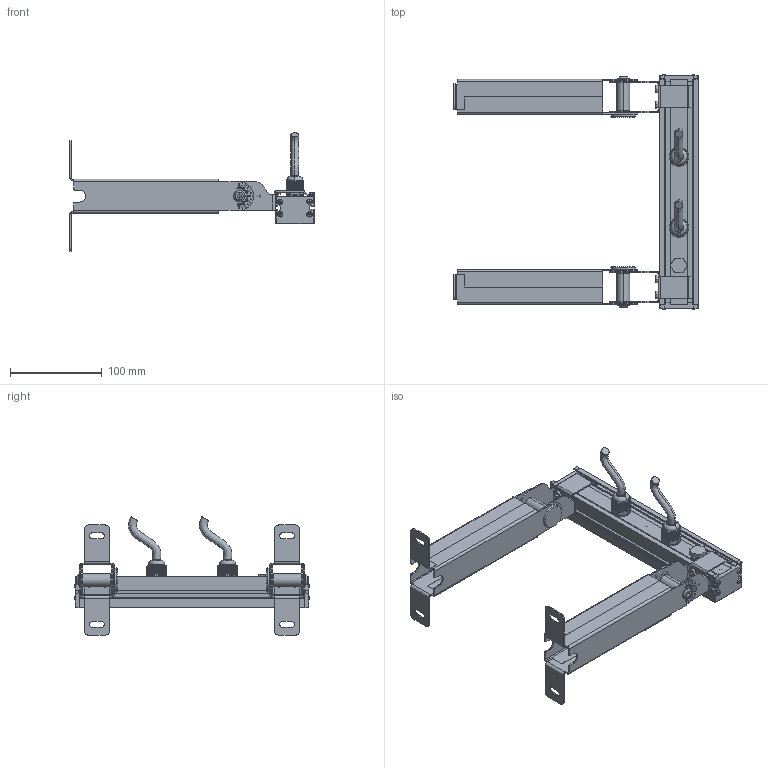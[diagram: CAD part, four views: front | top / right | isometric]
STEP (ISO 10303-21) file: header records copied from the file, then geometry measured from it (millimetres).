
FILE_DESCRIPTION((''),'2;1');
FILE_NAME('B6KE0657_ASM','2023-02-04T',('Administrator'),(''),'CREO PARAMETRIC BY PTC INC, 2015200','CREO PARAMETRIC BY PTC INC, 2015200','');
FILE_SCHEMA(('CONFIG_CONTROL_DESIGN'));
Products named in the file (26): 6KE-T; 6K-_3D_2017_1_6_; 6K_56_1; 6K_BL_06_9; PAD_1_1; FANGUANGSAI-1_1_1; FANGSHUISAI_1_1; MANIFOLEF_1_1; PG9_ASM_1_ASM; 6L-A1; 6L-A2; 6K-Y; 6LK; ___S_OF__S__37____X__2___B6KA12; SOCKET_HEAD_CAP_SCREW_ISO_ISO_4; M4-6; 6L-A_ASM; 6K-Y1; 6L-B_ASM; M3X6-YT_2; 6K_LJB_24PCS_5; 6R_TJZJ_5; 6K_LJB_ZJ_ASM_6_ASM; M3-22; PRODUCT_88784_ANY_1_1; B6KE0657_ASM
Assembly tree (45 placements, depth 3):
  B6KE0657_ASM
    6KE-T
    6K-_3D_2017_1_6_  x2
    6K_56_1  x2
    6K_BL_06_9
    PG9_ASM_1_ASM  x2
      PAD_1_1
      FANGUANGSAI-1_1_1
      FANGSHUISAI_1_1
      MANIFOLEF_1_1
    6L-A_ASM
      6L-A1
      6L-A2
      6K-Y
      6LK
      ___S_OF__S__37____X__2___B6KA12
      SOCKET_HEAD_CAP_SCREW_ISO_ISO_4
      M4-6  x2
    6L-B_ASM
      6L-A1
      6L-A2
      6K-Y1
      6LK
      SOCKET_HEAD_CAP_SCREW_ISO_ISO_4
      ___S_OF__S__37____X__2___B6KA12
      M4-6  x2
    M3X6-YT_2  x8
    6K_LJB_ZJ_ASM_6_ASM
      6K_LJB_24PCS_5
      6R_TJZJ_5
    M3-22  x3
    PRODUCT_88784_ANY_1_1
Bounding box: 266 x 255.14 x 128.92 mm (x, y, z)
Volume: 337615.6 mm3; surface area: 277725.5 mm2
Topology: 44 solids, 44 shells, 4921 faces, 13204 edges, 8580 vertices
Faces by surface type: plane 3599, cylinder 808, cone 434, bspline 40, sphere 16, torus 12, revolution 12
Entity records: 84979 total; most frequent: CARTESIAN_POINT 22106, ORIENTED_EDGE 13368, DIRECTION 12179, EDGE_CURVE 6684, VECTOR 5253, LINE 5253, VERTEX_POINT 4413, AXIS2_PLACEMENT_3D 3457
